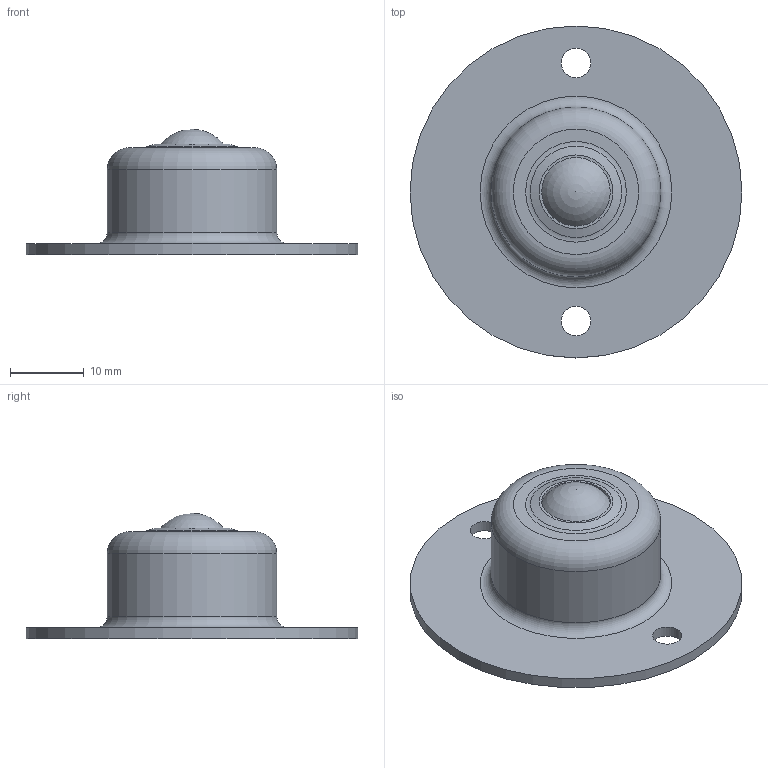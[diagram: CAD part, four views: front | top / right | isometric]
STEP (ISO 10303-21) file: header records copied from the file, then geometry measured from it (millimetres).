
FILE_DESCRIPTION(/* description */ (''),/* implementation_level */ '2;1');
FILE_NAME(/* name */ 'Z:\34-Tei\web 3Dデータ\14-IS-S型\IS-10S.stp',/* time_stamp */ '2015-01-09T11:51:47+09:00',/* author */ ('yamaki'),/* organization */ (''),/* preprocessor_version */ 'ST-DEVELOPER v15.6',/* originating_system */ 'Autodesk Inventor 2015',/* authorisation */ '');
FILE_SCHEMA (('AUTOMOTIVE_DESIGN { 1 0 10303 214 3 1 1 }'));
Length unit declared in the file: millimetre
Products named in the file (1): IS-10S
Bounding box: 45 x 45 x 17 mm (x, y, z)
Volume: 7636.7 mm3; surface area: 4408 mm2
Topology: 1 solids, 1 shells, 20 faces, 39 edges, 25 vertices
Faces by surface type: cylinder 7, plane 6, torus 4, cone 2, sphere 1
Full cylindrical faces by diameter (mm): 4 x2, 6 x1, 9.3 x1, 20 x1, 23 x1, 45 x1
Entity records: 471 total; most frequent: DIRECTION 84, CARTESIAN_POINT 63, EDGE_LOOP 42, ORIENTED_EDGE 42, AXIS2_PLACEMENT_3D 42, FACE_BOUND 22, CIRCLE 21, VERTEX_POINT 21
